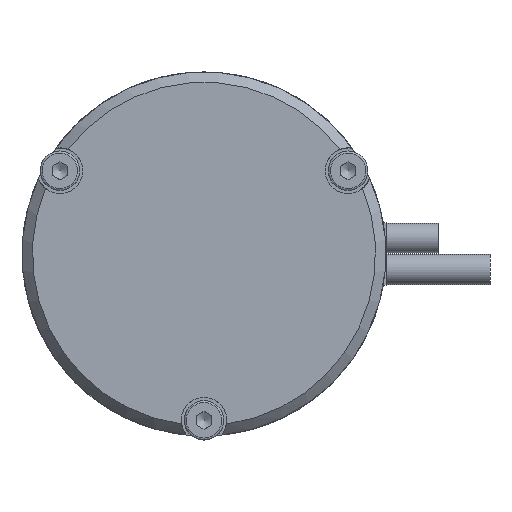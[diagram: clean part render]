
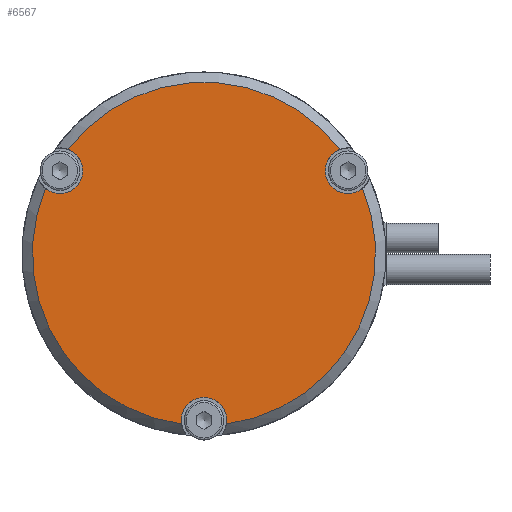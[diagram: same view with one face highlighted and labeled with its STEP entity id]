
A CAD part, left-side view. The second image highlights one B-rep face of the part: STEP entity #6567.
In plain terms, the highlighted planar face has unit normal (-1, 0, 0) as drawn and (0, 0, -1) by its records, which use the part's own axes.
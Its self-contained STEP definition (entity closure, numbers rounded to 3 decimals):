
#5871=CARTESIAN_POINT('',(15.251,-6.298,0.0));
#5872=VERTEX_POINT('',#5871);
#5898=CARTESIAN_POINT('',(13.08,-10.058,0.0));
#5899=VERTEX_POINT('',#5898);
#5910=CARTESIAN_POINT('',(13.856,-8.,0.0));
#5911=DIRECTION('',(0.0,0.0,1.));
#5912=DIRECTION('',(0.5,0.866,0.0));
#5913=AXIS2_PLACEMENT_3D('',#5910,#5911,#5912);
#5914=CIRCLE('',#5913,2.2);
#5915=EDGE_CURVE('',#5872,#5899,#5914,.T.);
#6051=CARTESIAN_POINT('',(-13.08,-10.058,0.0));
#6052=VERTEX_POINT('',#6051);
#6078=CARTESIAN_POINT('',(-15.251,-6.298,0.0));
#6079=VERTEX_POINT('',#6078);
#6090=CARTESIAN_POINT('',(-13.856,-8.,0.0));
#6091=DIRECTION('',(0.0,0.0,1.0));
#6092=DIRECTION('',(0.5,-0.866,0.0));
#6093=AXIS2_PLACEMENT_3D('',#6090,#6091,#6092);
#6094=CIRCLE('',#6093,2.2);
#6095=EDGE_CURVE('',#6052,#6079,#6094,.T.);
#6270=CARTESIAN_POINT('',(2.171,16.357,0.0));
#6271=VERTEX_POINT('',#6270);
#6272=CARTESIAN_POINT('',(0.0,0.0,0.0));
#6273=DIRECTION('',(0.0,0.0,1.0));
#6274=DIRECTION('',(-1.0,0.0,0.0));
#6275=AXIS2_PLACEMENT_3D('',#6272,#6273,#6274);
#6276=CIRCLE('',#6275,16.5);
#6277=EDGE_CURVE('',#5872,#6271,#6276,.T.);
#6300=CARTESIAN_POINT('',(-2.171,16.357,0.0));
#6301=VERTEX_POINT('',#6300);
#6312=CARTESIAN_POINT('',(0.0,0.0,0.0));
#6313=DIRECTION('',(0.0,0.0,1.0));
#6314=DIRECTION('',(-1.0,0.0,0.0));
#6315=AXIS2_PLACEMENT_3D('',#6312,#6313,#6314);
#6316=CIRCLE('',#6315,16.5);
#6317=EDGE_CURVE('',#6301,#6079,#6316,.T.);
#6489=CARTESIAN_POINT('',(0.0,16.0,0.0));
#6490=DIRECTION('',(0.0,0.0,1.0));
#6491=DIRECTION('',(-1.0,0.0,0.0));
#6492=AXIS2_PLACEMENT_3D('',#6489,#6490,#6491);
#6493=CIRCLE('',#6492,2.2);
#6494=EDGE_CURVE('',#6301,#6271,#6493,.T.);
#6548=CARTESIAN_POINT('',(0.0,0.0,0.0));
#6549=DIRECTION('',(0.0,0.0,-1.0));
#6550=DIRECTION('',(-1.0,0.0,0.0));
#6551=AXIS2_PLACEMENT_3D('',#6548,#6549,#6550);
#6552=PLANE('',#6551);
#6553=ORIENTED_EDGE('',*,*,#5915,.T.);
#6554=CARTESIAN_POINT('',(0.0,0.0,0.0));
#6555=DIRECTION('',(0.0,0.0,1.0));
#6556=DIRECTION('',(-1.0,0.0,0.0));
#6557=AXIS2_PLACEMENT_3D('',#6554,#6555,#6556);
#6558=CIRCLE('',#6557,16.5);
#6559=EDGE_CURVE('',#6052,#5899,#6558,.T.);
#6560=ORIENTED_EDGE('',*,*,#6559,.F.);
#6561=ORIENTED_EDGE('',*,*,#6095,.T.);
#6562=ORIENTED_EDGE('',*,*,#6317,.F.);
#6563=ORIENTED_EDGE('',*,*,#6494,.T.);
#6564=ORIENTED_EDGE('',*,*,#6277,.F.);
#6565=EDGE_LOOP('',(#6553,#6560,#6561,#6562,#6563,#6564));
#6566=FACE_OUTER_BOUND('',#6565,.T.);
#6567=ADVANCED_FACE('',(#6566),#6552,.T.);
